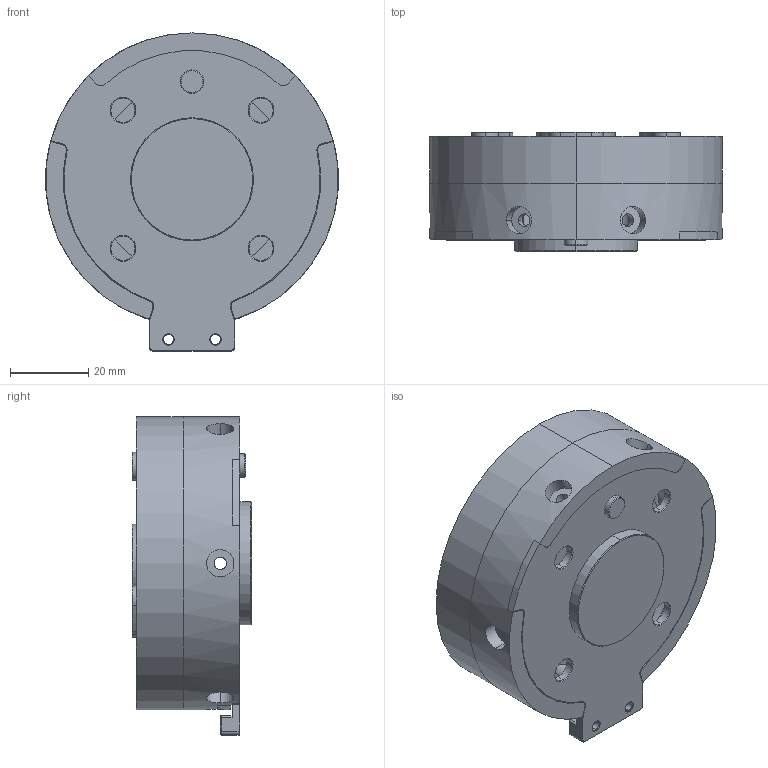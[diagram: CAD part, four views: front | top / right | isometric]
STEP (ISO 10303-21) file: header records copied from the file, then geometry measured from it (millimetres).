
FILE_DESCRIPTION (( 'STEP AP203' ), '1' );
FILE_NAME ('生态套件-星火计划-力传感器，GZCX-6F-75MM.STEP', '2024-11-08T08:52:22', ( '' ), ( '' ), 'SwSTEP 2.0', 'SolidWorks 2018', '' );
FILE_SCHEMA (( 'CONFIG_CONTROL_DESIGN' ));
Length unit declared in the file: millimetre
Products named in the file (1): 生态套件-星火计划-力传感器，GZCX-6F-75MM
Bounding box: 75 x 30.5 x 81.5 mm (x, y, z)
Surface area: 30291.4 mm2 (no closed solid volume)
Topology: 0 solids, 6 shells, 216 faces, 700 edges, 494 vertices
Faces by surface type: cylinder 129, plane 57, cone 28, bspline 2
Entity records: 9625 total; most frequent: CARTESIAN_POINT 3258, DIRECTION 1394, ORIENTED_EDGE 1176, EDGE_CURVE 700, AXIS2_PLACEMENT_3D 540, VERTEX_POINT 494, CIRCLE 325, VECTOR 314
